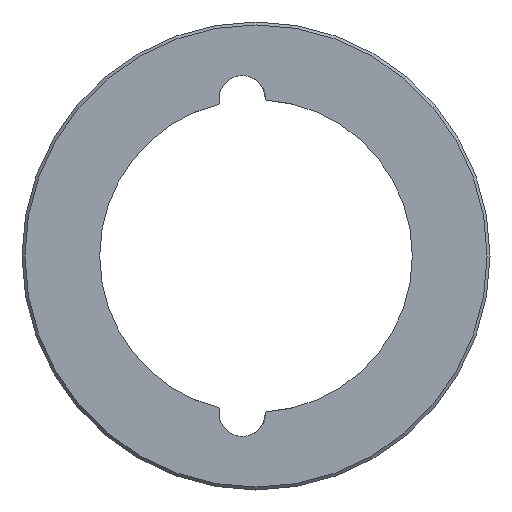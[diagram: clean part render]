
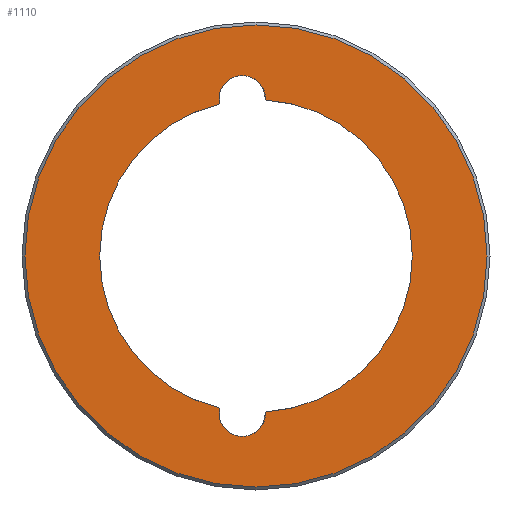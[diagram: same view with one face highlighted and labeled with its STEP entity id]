
A CAD part, left-side view. The second image highlights one B-rep face of the part: STEP entity #1110.
In plain terms, the highlighted planar face has unit normal (-1, 0, 0).
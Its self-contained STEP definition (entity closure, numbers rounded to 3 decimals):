
#80=FACE_BOUND('',#380,.T.);
#125=PLANE('',#1291);
#225=FACE_OUTER_BOUND('',#379,.T.);
#379=EDGE_LOOP('',(#957));
#380=EDGE_LOOP('',(#958,#959,#960,#961));
#401=CIRCLE('',#1131,26.717);
#409=CIRCLE('',#1144,3.969);
#413=CIRCLE('',#1149,3.969);
#485=CIRCLE('',#1290,39.5);
#486=CIRCLE('',#1292,26.717);
#527=VERTEX_POINT('',#1789);
#528=VERTEX_POINT('',#1796);
#538=VERTEX_POINT('',#1859);
#549=VERTEX_POINT('',#1915);
#615=VERTEX_POINT('',#2128);
#635=EDGE_CURVE('',#527,#528,#401,.T.);
#650=EDGE_CURVE('',#538,#528,#409,.T.);
#662=EDGE_CURVE('',#527,#549,#413,.T.);
#734=EDGE_CURVE('',#615,#615,#485,.T.);
#735=EDGE_CURVE('',#538,#549,#486,.T.);
#957=ORIENTED_EDGE('',*,*,#734,.T.);
#958=ORIENTED_EDGE('',*,*,#662,.T.);
#959=ORIENTED_EDGE('',*,*,#735,.F.);
#960=ORIENTED_EDGE('',*,*,#650,.T.);
#961=ORIENTED_EDGE('',*,*,#635,.F.);
#1110=ADVANCED_FACE('',(#225,#80),#125,.T.);
#1131=AXIS2_PLACEMENT_3D('',#1797,#1331,#1332);
#1144=AXIS2_PLACEMENT_3D('',#1860,#1359,#1360);
#1149=AXIS2_PLACEMENT_3D('',#1922,#1371,#1372);
#1290=AXIS2_PLACEMENT_3D('',#2129,#1653,#1654);
#1291=AXIS2_PLACEMENT_3D('',#2130,#1655,#1656);
#1292=AXIS2_PLACEMENT_3D('',#2131,#1657,#1658);
#1331=DIRECTION('center_axis',(-1.,0.,0.));
#1332=DIRECTION('ref_axis',(0.,0.,1.));
#1359=DIRECTION('center_axis',(1.,0.,0.));
#1360=DIRECTION('ref_axis',(0.,0.974,-0.227));
#1371=DIRECTION('center_axis',(1.,0.,0.));
#1372=DIRECTION('ref_axis',(0.,-0.999,0.055));
#1653=DIRECTION('center_axis',(-1.,0.,0.));
#1654=DIRECTION('ref_axis',(0.,0.,1.));
#1655=DIRECTION('center_axis',(-1.,0.,0.));
#1656=DIRECTION('ref_axis',(0.,0.,1.));
#1657=DIRECTION('center_axis',(-1.,0.,0.));
#1658=DIRECTION('ref_axis',(0.,0.,1.));
#1789=CARTESIAN_POINT('',(-48.953,-1.611,18.515));
#1796=CARTESIAN_POINT('',(-48.953,-1.611,71.852));
#1797=CARTESIAN_POINT('Origin',(-48.953,0.,45.184));
#1859=CARTESIAN_POINT('',(-48.953,6.217,71.167));
#1860=CARTESIAN_POINT('Origin',(-48.953,2.352,72.068));
#1915=CARTESIAN_POINT('',(-48.953,6.217,19.2));
#1922=CARTESIAN_POINT('Origin',(-48.953,2.352,18.299));
#2128=CARTESIAN_POINT('',(-48.953,0.,84.684));
#2129=CARTESIAN_POINT('Origin',(-48.953,0.,45.184));
#2130=CARTESIAN_POINT('Origin',(-48.953,0.,71.901));
#2131=CARTESIAN_POINT('Origin',(-48.953,0.,45.184));
